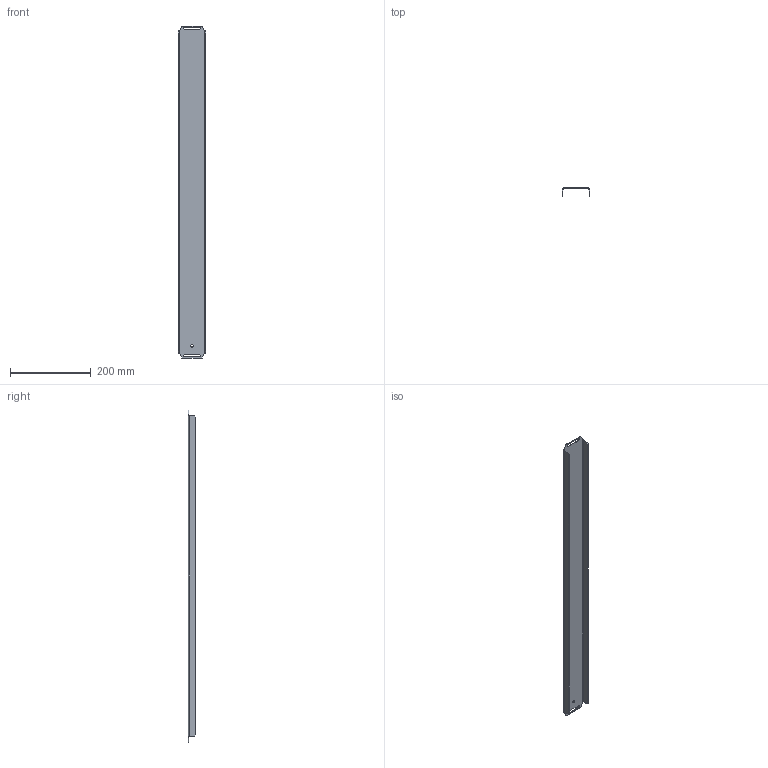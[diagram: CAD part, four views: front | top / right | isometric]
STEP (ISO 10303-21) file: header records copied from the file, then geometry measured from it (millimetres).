
FILE_DESCRIPTION (( 'STEP AP214' ), '1' );
FILE_NAME ('PKV 100 S Ïàíåëü ñòàöèîíàðíàÿ.STEP', '2023-10-09T14:48:46', ( '' ), ( '' ), 'SwSTEP 2.0', 'SolidWorks 2022', '' );
FILE_SCHEMA (( 'AUTOMOTIVE_DESIGN' ));
Length unit declared in the file: millimetre
Products named in the file (1): PKV 100 S Панель стационарная
Bounding box: 67 x 19 x 820.5 mm (x, y, z)
Volume: 97329.5 mm3; surface area: 164622.7 mm2
Topology: 1 solids, 1 shells, 40 faces, 98 edges, 60 vertices
Faces by surface type: plane 26, cylinder 10, bspline 4
Entity records: 1312 total; most frequent: CARTESIAN_POINT 363, ORIENTED_EDGE 196, DIRECTION 168, EDGE_CURVE 98, LINE 70, VECTOR 70, VERTEX_POINT 60, AXIS2_PLACEMENT_3D 49
